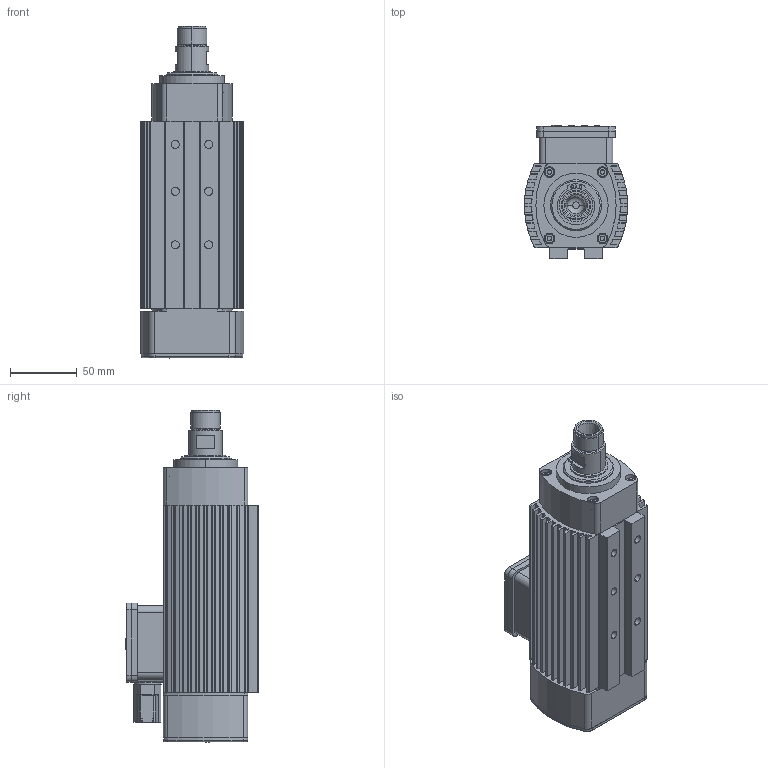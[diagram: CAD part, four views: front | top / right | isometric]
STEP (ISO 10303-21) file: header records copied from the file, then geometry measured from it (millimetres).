
FILE_DESCRIPTION (( 'STEP AP203' ), '1' );
FILE_NAME ('ARFM.1Y-M ER 16.STEP', '2019-11-27T13:25:53', ( '' ), ( '' ), 'SwSTEP 2.0', 'SolidWorks 2014', '' );
FILE_SCHEMA (( 'CONFIG_CONTROL_DESIGN' ));
Length unit declared in the file: millimetre
Products named in the file (12): arfm.1y rotor mili er 16; pg 9 týrnaklý; arfm.1y arka kapak; M4x35 inpus_91290A173; arfm.1y klemens kutusu; arfm.1y gövde; arfm.1y hava kapak; arfm.1y pensli 霵 toz kapak; ARFM.1Y-M ER 16; arfm.1y klemens kutusu kapaðý; arfm.1y pensli 霵 kapak; 471-25 Sekman_98541A440
Assembly tree (14 placements, depth 2):
  ARFM.1Y-M ER 16
    arfm.1y gövde
    arfm.1y pensli 霵 kapak
    arfm.1y arka kapak
    arfm.1y pensli 霵 toz kapak
    arfm.1y rotor mili er 16
    arfm.1y klemens kutusu
    arfm.1y klemens kutusu kapaðý
    pg 9 týrnaklý
    arfm.1y hava kapak
    471-25 Sekman_98541A440
    M4x35 inpus_91290A173  x4
Bounding box: 77 x 99.3 x 248 mm (x, y, z)
Volume: 987643.6 mm3; surface area: 162015.4 mm2
Topology: 14 solids, 14 shells, 1572 faces, 4369 edges, 2880 vertices
Faces by surface type: cylinder 1142, plane 325, cone 68, bspline 19, torus 18
Entity records: 34361 total; most frequent: CARTESIAN_POINT 11301, ORIENTED_EDGE 4778, DIRECTION 4427, EDGE_CURVE 2389, AXIS2_PLACEMENT_3D 1609, VERTEX_POINT 1578, VECTOR 1209, LINE 1209
